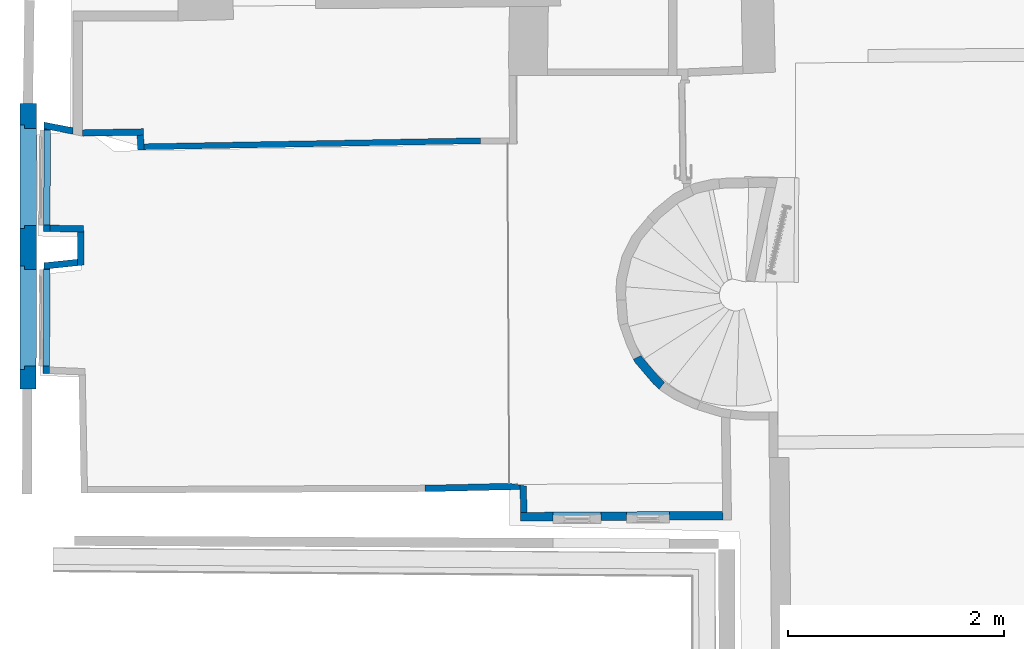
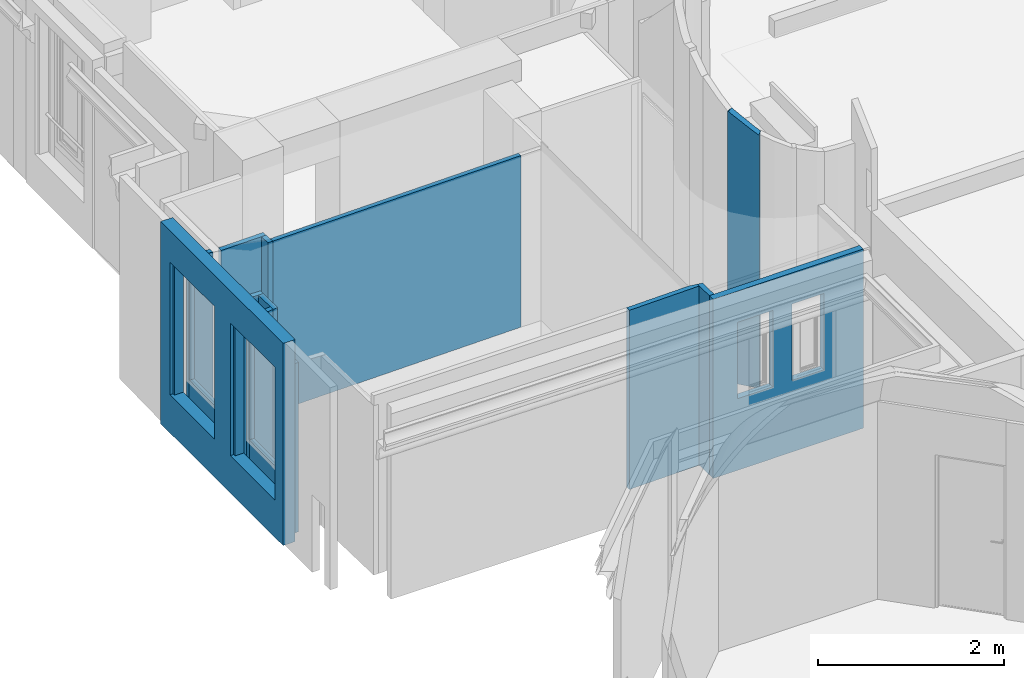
# One storey, part 9 of 72: 14 walls, 6 openings.
"""IFC2X3 building model written with IfcOpenShell, lengths in centimetres."""

from ifc_helpers import new_model, entity, si_unit, converted_unit, direction, frame, origin, origin_with_axes, place, context, subcontext, project, spatial, polyline, outline, extrude, clip, bounded_halfspace, faceted_brep, shape, material, layer, layer_set, layer_usage, type_object, element, save


model = new_model("IFC2X3")

# Units and contexts
model_context = context("Model", 3, precision=0.0001, world=origin(), true_north=direction((0.225632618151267, 0.974212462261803, 0.0)))
body_context = subcontext(model_context, "Body", "Model", "MODEL_VIEW")
footprint_context = subcontext(model_context, "FootPrint", "Model", "MODEL_VIEW")
profile_context = subcontext(model_context, "Profile", "Model", "MODEL_VIEW")
ifc_project = project(units=[si_unit("LENGTHUNIT", "METRE", prefix="CENTI"), si_unit("AREAUNIT", "SQUARE_METRE", prefix="CENTI"), si_unit("VOLUMEUNIT", "CUBIC_METRE", prefix="CENTI"), converted_unit("PLANEANGLEUNIT", "DEGREE", entity("IfcRatioMeasure", 0.0174532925), si_unit("PLANEANGLEUNIT", "RADIAN"), dimensions=[0, 0, 0, 0, 0, 0, 0])], contexts=[model_context])

# Site, building, storey
site_placement = place(None, origin_with_axes())
site = spatial("IfcSite", under=ifc_project, at=site_placement, Name="Default Site", CompositionType="ELEMENT")
building_placement = place(site_placement, origin_with_axes())
building = spatial("IfcBuilding", under=site, at=building_placement, Name="Default Building", CompositionType="ELEMENT")
storey_placement = place(building_placement, frame((0.0, 0.0, 853.910374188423), z_axis=(0.0, 0.0, 1.0), x_axis=(1.0, 0.0, 0.0)))
storey = spatial("IfcBuildingStorey", under=building, at=storey_placement, Name="Niveau 2", CompositionType="ELEMENT", Elevation=853.910374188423)

# Walls
ifc_material = material(Name="<aucun>")
ifc_layer_1 = layer(ifc_material, 6.0)
ifc_layer_set_1 = layer_set([ifc_layer_1], Name="default")
ifc_layer_usage_1 = layer_usage(ifc_layer_set_1, "AXIS2", "POSITIVE", -3.0)
wall_type_1 = type_object("IfcWallType", Name="default 60", PredefinedType="NOTDEFINED", material=ifc_layer_set_1)
wall_1_placement = place(storey_placement, frame((-894.619456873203, -318.216870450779, 1.4210854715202e-12), z_axis=(0.0, 0.0, 1.0), x_axis=(-0.0211585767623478, 0.999776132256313, 0.0)))
element("IfcWallStandardCase", 1, at=wall_1_placement, inside=storey, type_object=wall_type_1, material=ifc_layer_usage_1, Name="Enveloppe 176780", context=body_context, shape_type="SweptSolid", body=[
    extrude(outline(polyline([(33.4000968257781, 2.99999999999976), (8.14618749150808, 2.99999999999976), (8.05158322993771, -3.00000000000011), (32.267273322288, -3.00000000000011), (33.4000968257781, 2.99999999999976)])), frame((0.0, 0.0, -3.5527136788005e-13), z_axis=(0.0, 0.0, 1.0), x_axis=(1.0, 0.0, 0.0)), (0.0, 0.0, 1.0), 234.999999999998),
])
ifc_layer_usage_2 = layer_usage(ifc_layer_set_1, "AXIS2", "POSITIVE", -3.0)
wall_2_placement = place(storey_placement, frame((-1248.60407595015, 24.121359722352, 1.4210854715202e-12), z_axis=(0.0, 0.0, 1.0), x_axis=(-0.047141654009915, 0.998888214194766, 0.0)))
element("IfcWallStandardCase", 2, at=wall_2_placement, inside=storey, type_object=wall_type_1, material=ifc_layer_usage_2, Name="Enveloppe 176740", context=body_context, shape_type="SweptSolid", body=[
    extrude(outline(polyline([(14.4806644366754, 2.99999999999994), (0.981793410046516, 2.99999999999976), (0.806146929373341, -3.00000000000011), (14.3042869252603, -3.00000000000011), (14.4806644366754, 2.99999999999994)])), frame((0.0, 0.0, 3.5527136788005e-13), z_axis=(0.0, 0.0, 1.0), x_axis=(1.0, 0.0, 0.0)), (0.0, 0.0, 1.0), 224.999999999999),
])

# Wall, opening
ifc_layer_usage_3 = layer_usage(ifc_layer_set_1, "AXIS2", "POSITIVE", -3.0)
wall_3_placement = place(storey_placement, frame((-1335.77542990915, -44.5581791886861, 1.4210854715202e-12), z_axis=(0.0, 0.0, 1.0), x_axis=(0.00636364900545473, 0.999979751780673, 0.0)))
wall_3 = element("IfcWallStandardCase", 3, at=wall_3_placement, inside=storey, type_object=wall_type_1, material=ifc_layer_usage_3, Name="Enveloppe 176069", context=body_context, shape_type="SweptSolid", body=[
    extrude(outline(polyline([(-5.95347494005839, 3.00000000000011), (-6.0001817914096, -3.00000000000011), (87.9552161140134, -2.99999999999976), (89.0663379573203, 3.00000000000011), (-5.95347494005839, 3.00000000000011)])), frame((0.0, 0.0, -8.88178419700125e-13), z_axis=(0.0, 0.0, 1.0), x_axis=(1.0, 0.0, 0.0)), (0.0, 0.0, 1.0), 221.999999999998),
])
opening_1_placement = place(wall_3_placement, frame((-3.5527136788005e-14, 2.27373675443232e-13, 63.9999999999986), z_axis=(0.0, 0.0, 1.0), x_axis=(-1.0, 3.27862736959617e-16, 0.0)))
cartesian_point_1 = entity("IfcCartesianPoint", [-1.11022302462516e-14, 1.77635683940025e-13, 158.0])
cartesian_point_2 = entity("IfcCartesianPoint", [-87.9552161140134, -2.99999999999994])
element("IfcOpeningElement", 4, at=opening_1_placement, cuts=wall_3, Name="4294966501_11", ObjectType="Opening", shapes=[
    shape(body_context, "Body", "SweptSolid", [extrude(outline(polyline([(1.11022302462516e-14, 158.0), (0.0, 0.0), (87.9552161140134, 0.0), (87.9552161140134, 158.0), (1.11022302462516e-14, 158.0)])), frame((0.0, -13.0, 0.0), z_axis=(0.0, 1.0, 0.0), x_axis=(-1.0, 0.0, 0.0)), (0.0, 0.0, 1.0), 26.0)]),
    shape(profile_context, "Profile", "GeometricCurveSet", [entity("IfcGeometricCurveSet", [entity("IfcPolyline", [cartesian_point_1, entity("IfcCartesianPoint", [0.0, 1.77635683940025e-13, 0.0]), entity("IfcCartesianPoint", [-87.9552161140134, 3.5527136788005e-13, 0.0]), entity("IfcCartesianPoint", [-87.9552161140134, 3.5527136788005e-13, 158.0]), cartesian_point_1])])]),
    shape(footprint_context, "FootPrint", "GeometricCurveSet", [entity("IfcGeometricCurveSet", [entity("IfcPolyline", [cartesian_point_2, entity("IfcCartesianPoint", [0.0, -2.99999999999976]), entity("IfcCartesianPoint", [-1.11022302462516e-14, 3.00000000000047]), entity("IfcCartesianPoint", [-87.9552161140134, 3.00000000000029]), cartesian_point_2])])]),
])

# Walls
ifc_layer_usage_4 = layer_usage(ifc_layer_set_1, "AXIS2", "POSITIVE", -3.0)
wall_4_placement = place(storey_placement, frame((-1304.15660863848, -81.4931069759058, 1.4210854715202e-12), z_axis=(0.0, 0.0, 1.0), x_axis=(-0.0132160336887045, 0.999912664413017, 0.0)))
element("IfcWallStandardCase", 5, at=wall_4_placement, inside=storey, type_object=wall_type_1, material=ifc_layer_usage_4, Name="Enveloppe 176222", context=body_context, shape_type="SweptSolid", body=[
    extrude(outline(polyline([(30.6007949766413, 2.99999999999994), (-0.564094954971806, 3.00000000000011), (-0.00862817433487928, -2.99999999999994), (30.4365674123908, -2.99999999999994), (30.6007949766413, 2.99999999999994)])), frame((0.0, 0.0, -5.32907051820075e-13), z_axis=(0.0, 0.0, 1.0), x_axis=(1.0, 0.0, 0.0)), (0.0, 0.0, 1.0), 221.999999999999),
])
ifc_layer_usage_5 = layer_usage(ifc_layer_set_1, "AXIS2", "POSITIVE", -3.0)
wall_5_placement = place(storey_placement, frame((-1301.62957976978, 40.5651131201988, 1.4210854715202e-12), z_axis=(0.0, 0.0, 1.0), x_axis=(-0.982103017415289, 0.188344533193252, 0.0)))
element("IfcWallStandardCase", 6, at=wall_5_placement, inside=storey, type_object=wall_type_1, material=ifc_layer_usage_5, Name="Enveloppe 175841", context=body_context, shape_type="Clipping", body=[
    clip(clip(extrude(outline(polyline([(37.4510535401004, 3.00000000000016), (9.51819974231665, 3.00000000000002), (10.6770211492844, -2.99999999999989), (37.7813776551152, -2.9999999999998), (37.4510535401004, -1.21626700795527), (37.4510535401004, 3.00000000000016)])), origin_with_axes(), (0.0, 0.0, 1.0), 224.999999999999), bounded_halfspace(frame((37.4510535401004, 3.00000000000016, 221.999999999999), z_axis=(0.0, 0.0, 1.0), x_axis=(6.13398221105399e-15, -1.0, 0.0)), True, frame((37.4510535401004, 3.00000000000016, 221.999999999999), z_axis=(0.0, 0.0, 1.0), x_axis=(1.0, 0.0, 0.0)), polyline([(-0.780797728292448, -4.44089209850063e-14), (0.0, -4.44089209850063e-14), (0.0, -4.21626700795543), (-0.780797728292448, -4.44089209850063e-14)]))), bounded_halfspace(frame((37.4510535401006, -1.21626700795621, 221.999999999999), z_axis=(0.0, 0.0, -1.0), x_axis=(-1.12382325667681e-13, -1.0, 0.0)), True, frame((37.4510535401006, -1.21626700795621, 221.999999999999), z_axis=(0.0, 0.0, 1.0), x_axis=(1.0, 0.0, 0.0)), polyline([(-1.77635683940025e-13, -1.7837329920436), (0.330324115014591, -1.7837329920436), (0.0, 0.0), (-1.77635683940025e-13, -1.7837329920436)]))),
])
ifc_layer_usage_6 = layer_usage(ifc_layer_set_1, "AXIS2", "POSITIVE", -3.0)
wall_6_placement = place(storey_placement, frame((-1301.58046418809, -48.0189474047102, 1.4210854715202e-12), z_axis=(0.0, 0.0, 1.0), x_axis=(-0.999899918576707, 0.0141475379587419, 0.0)))
element("IfcWallStandardCase", 7, at=wall_6_placement, inside=storey, type_object=wall_type_1, material=ifc_layer_usage_6, Name="Enveloppe 175987", context=body_context, shape_type="SweptSolid", body=[
    extrude(outline(polyline([(31.193888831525, 2.99999999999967), (-0.0637918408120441, 2.99999999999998), (0.10043572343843, -3.0), (31.2405956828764, -3.00000000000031), (31.193888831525, 2.99999999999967)])), frame((0.0, 0.0, 1.77635683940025e-13), z_axis=(0.0, 0.0, 1.0), x_axis=(1.0, 0.0, 0.0)), (0.0, 0.0, 1.0), 221.999999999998),
])
ifc_layer_usage_7 = layer_usage(ifc_layer_set_1, "AXIS2", "POSITIVE", -3.0)
wall_7_placement = place(storey_placement, frame((-1339.28688111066, -82.4842212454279, 1.4210854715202e-12), z_axis=(0.0, 0.0, 1.0), x_axis=(0.994436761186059, 0.105335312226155, 0.0)))
element("IfcWallStandardCase", 8, at=wall_7_placement, inside=storey, type_object=wall_type_1, material=ifc_layer_usage_7, Name="Enveloppe 176242", context=body_context, shape_type="SweptSolid", body=[
    extrude(outline(polyline([(0.412707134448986, -3.0), (32.0000073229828, -2.99999999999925), (32.5554741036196, 3.00000000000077), (1.09163626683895, 3.00000000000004), (0.412707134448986, -3.0)])), origin_with_axes(), (0.0, 0.0, 1.0), 221.999999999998),
])
ifc_layer_usage_8 = layer_usage(ifc_layer_set_1, "AXIS2", "POSITIVE", -3.0)
wall_8_placement = place(storey_placement, frame((-985.842209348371, -288.034717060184, 1.4210854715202e-12), z_axis=(0.0, 0.0, 1.0), x_axis=(0.999736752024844, 0.0229439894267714, 0.0)))
element("IfcWallStandardCase", 9, at=wall_8_placement, inside=storey, type_object=wall_type_1, material=ifc_layer_usage_8, Name="Enveloppe 176538", context=body_context, shape_type="SweptSolid", body=[
    extrude(outline(polyline([(-0.0440883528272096, 3.00101182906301), (-0.155872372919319, -2.99770562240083), (87.5585013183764, -3.00000000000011), (87.5658914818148, 1.13817923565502), (77.8004510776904, 2.99999999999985), (-0.0440883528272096, 3.00101182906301)])), frame((0.0, 0.0, -3.5527136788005e-13), z_axis=(0.0, 0.0, 1.0), x_axis=(1.0, 0.0, 0.0)), (0.0, 0.0, 1.0), 234.999999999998),
])

# Wall, opening
ifc_layer_usage_9 = layer_usage(ifc_layer_set_1, "AXIS2", "POSITIVE", -3.0)
wall_9_placement = place(storey_placement, frame((-1336.20455837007, -175.585674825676, 1.4210854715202e-12), z_axis=(0.0, 0.0, 1.0), x_axis=(0.0071444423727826, 0.999974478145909, 0.0)))
wall_9 = element("IfcWallStandardCase", 10, at=wall_9_placement, inside=storey, type_object=wall_type_1, material=ifc_layer_usage_9, Name="Enveloppe 176262", context=body_context, shape_type="SweptSolid", body=[
    extrude(outline(polyline([(-5.99692213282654, 2.99999999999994), (-6.20419420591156, -2.99999999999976), (90.8214123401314, -2.99999999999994), (90.1424832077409, 2.99999999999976), (-5.99692213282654, 2.99999999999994)])), frame((0.0, 0.0, 1.77635683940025e-13), z_axis=(0.0, 0.0, 1.0), x_axis=(1.0, 0.0, 0.0)), (0.0, 0.0, 1.0), 221.999999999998),
])
opening_2_placement = place(wall_9_placement, frame((0.56182640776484, 2.27373675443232e-13, 63.9999999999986), z_axis=(0.0, 0.0, 1.0), x_axis=(-1.0, 1.71477415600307e-15, 0.0)))
cartesian_point_3 = entity("IfcCartesianPoint", [0.0, 0.0, 158.000003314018])
cartesian_point_4 = entity("IfcCartesianPoint", [-89.568901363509, -3.00000000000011])
element("IfcOpeningElement", 11, at=opening_2_placement, cuts=wall_9, Name="4294966504_11", ObjectType="Opening", shapes=[
    shape(body_context, "Body", "SweptSolid", [extrude(outline(polyline([(0.0, 158.000003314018), (0.0, 0.0), (89.568901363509, 0.0), (89.568901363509, 158.000003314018), (0.0, 158.000003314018)])), frame((0.0, -13.0, 0.0), z_axis=(0.0, 1.0, 0.0), x_axis=(-1.0, 0.0, 0.0)), (0.0, 0.0, 1.0), 26.0)]),
    shape(profile_context, "Profile", "GeometricCurveSet", [entity("IfcGeometricCurveSet", [entity("IfcPolyline", [cartesian_point_3, entity("IfcCartesianPoint", [0.0, 0.0, 0.0]), entity("IfcCartesianPoint", [-89.568901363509, -3.5527136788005e-13, 0.0]), entity("IfcCartesianPoint", [-89.568901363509, -3.5527136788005e-13, 158.000003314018]), cartesian_point_3])])]),
    shape(footprint_context, "FootPrint", "GeometricCurveSet", [entity("IfcGeometricCurveSet", [entity("IfcPolyline", [cartesian_point_4, entity("IfcCartesianPoint", [0.0, -3.00000000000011]), entity("IfcCartesianPoint", [-2.22044604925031e-14, 2.99999999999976]), entity("IfcCartesianPoint", [-89.568901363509, 2.99999999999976]), cartesian_point_4])])]),
])

# Wall
ifc_layer_usage_10 = layer_usage(ifc_layer_set_1, "AXIS2", "POSITIVE", -3.0)
wall_10_placement = place(storey_placement, frame((-1302.24683388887, 40.5569624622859, 1.4210854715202e-12), z_axis=(0.0, 0.0, 1.0), x_axis=(0.999842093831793, 0.0177704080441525, 0.0)))
element("IfcWallStandardCase", 12, at=wall_10_placement, inside=storey, type_object=wall_type_1, material=ifc_layer_usage_10, Name="Enveloppe 175681", context=body_context, shape_type="SweptSolid", body=[
    extrude(outline(polyline([(-0.344348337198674, -2.86621744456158), (0.291903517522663, -2.99999999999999), (55.9206138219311, -3.00000000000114), (55.7442363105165, 2.99999999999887), (-0.247782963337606, 3.0), (-0.344348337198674, -2.86621744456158)])), frame((0.0, 0.0, -1.77635683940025e-13), z_axis=(0.0, 0.0, 1.0), x_axis=(1.0, 0.0, 0.0)), (0.0, 0.0, 1.0), 224.999999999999),
])

# Wall, openings
ifc_layer_2 = layer(ifc_material, 15.0)
ifc_layer_set_2 = layer_set([ifc_layer_2], Name="default")
ifc_layer_usage_11 = layer_usage(ifc_layer_set_2, "AXIS2", "POSITIVE", -7.5)
wall_type_2 = type_object("IfcWallType", Name="default 150", PredefinedType="NOTDEFINED", material=ifc_layer_set_2)
wall_11_placement = place(storey_placement, frame((-1353.00952372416, -195.890849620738, -1.95399252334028e-11), z_axis=(0.0, 0.0, 1.0), x_axis=(0.000782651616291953, 0.999999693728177, 0.0)))
wall_11 = element("IfcWallStandardCase", 13, at=wall_11_placement, inside=storey, type_object=wall_type_2, material=ifc_layer_usage_11, Name="Enveloppe 461511", context=body_context, shape_type="SweptSolid", body=[
    extrude(outline(polyline([(-2.22044604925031e-14, 7.49999999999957), (2.22044604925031e-14, 5.32698075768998), (-0.0958763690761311, 5.32702468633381), (-0.0999999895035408, -3.67297436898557), (-2.22044604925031e-14, -3.67302018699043), (0.0, -7.50000000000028), (263.602983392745, -7.50000000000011), (263.602983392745, -4.11672517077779), (263.734063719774, 4.88232022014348), (263.602983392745, 4.88422953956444), (263.602983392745, 7.49999999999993), (-2.22044604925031e-14, 7.49999999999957)])), frame((0.0, 0.0, 1.97175609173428e-11), z_axis=(0.0, 0.0, 1.0), x_axis=(1.0, 0.0, 0.0)), (0.0, 0.0, 1.0), 265.061625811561),
])
opening_3_placement = place(wall_11_placement, frame((17.9392552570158, 2.27373675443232e-13, 49.0919127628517), z_axis=(0.0, 0.0, 1.0), x_axis=(1.0, 1.81278603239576e-16, 0.0)))
cartesian_point_5 = entity("IfcCartesianPoint", [0.0, 0.0, 174.0])
cartesian_point_6 = entity("IfcCartesianPoint", [95.5707139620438, 7.49999999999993])
element("IfcOpeningElement", 14, at=opening_3_placement, cuts=wall_11, Name="Baie 748106", ObjectType="Opening", shapes=[
    shape(body_context, "Body", "Brep", [faceted_brep([(-3.93469044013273e-06, 27.4999777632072, 174.000047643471), (95.5707147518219, 27.4999777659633, 174.000047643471), (95.5707147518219, 27.4999777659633, -2.48357766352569e-05), (-3.93469044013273e-06, 27.4999777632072, -2.48357766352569e-05), (3.00000539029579, -27.4999990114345, -2.48357766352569e-05), (92.5707160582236, -27.4999990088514, -2.48357766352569e-05), (92.5707160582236, -27.4999990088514, 174.000047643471), (3.00000539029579, -27.4999990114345, 174.000047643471), (3.00000538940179, 3.49995707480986, 174.000047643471), (3.00000538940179, 3.49995707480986, -2.48357766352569e-05), (3.00000231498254, 3.49995707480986, -2.48357766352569e-05), (3.00000231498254, 3.49995707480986, 174.000047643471), (4.22883324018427e-06, 3.49995707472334, 174.000047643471), (4.22883324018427e-06, 3.49995707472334, -2.48357766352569e-05), (4.22883323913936e-06, 3.49999330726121, -2.48357766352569e-05), (4.22883323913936e-06, 3.49999330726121, 174.000047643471), (4.22814110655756e-06, 27.4999777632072, 174.000047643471), (4.22814110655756e-06, 27.4999777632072, -2.48357766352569e-05), (92.5707160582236, -27.4999914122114, -2.48357766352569e-05), (95.5707147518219, 27.5000082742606, -2.48357766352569e-05), (95.5707109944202, 3.50002380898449, -2.48357766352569e-05), (92.5707129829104, 3.49996467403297, -2.48357766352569e-05), (92.5707160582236, -27.4999914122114, 174.000047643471), (92.5707160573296, 3.49996467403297, -2.48357766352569e-05), (92.5707160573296, 3.49996467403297, 174.000047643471), (92.5707129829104, 3.49996467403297, 174.000047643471), (95.5707109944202, 3.49996467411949, -2.48357766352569e-05), (95.5707109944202, 3.49996467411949, 174.000047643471), (95.5707109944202, 3.50002380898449, 174.000047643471), (95.5707109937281, 27.5000082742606, -2.48357766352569e-05), (95.5707109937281, 27.5000082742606, 174.000047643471), (95.5707147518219, 27.5000082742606, 174.000047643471)], [[[0, 1, 2, 3]], [[4, 5, 6, 7]], [[4, 7, 8, 9]], [[10, 11, 12, 13]], [[14, 15, 16, 17]], [[18, 4, 10, 14, 3, 19, 20, 21]], [[22, 18, 23, 24]], [[25, 21, 26, 27]], [[28, 20, 29, 30]], [[25, 28, 31, 0, 15, 11, 7, 22]]])]),
    shape(profile_context, "Profile", "GeometricCurveSet", [entity("IfcGeometricCurveSet", [entity("IfcPolyline", [cartesian_point_5, entity("IfcCartesianPoint", [0.0, 0.0, 0.0]), entity("IfcCartesianPoint", [95.5707139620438, 0.0, 0.0]), entity("IfcCartesianPoint", [95.5707139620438, 0.0, 174.0]), cartesian_point_5])])]),
    shape(footprint_context, "FootPrint", "GeometricCurveSet", [entity("IfcGeometricCurveSet", [entity("IfcPolyline", [cartesian_point_6, entity("IfcCartesianPoint", [2.22044604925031e-14, 7.49999999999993]), entity("IfcCartesianPoint", [0.0, -7.49999999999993]), entity("IfcCartesianPoint", [95.5707139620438, -7.49999999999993]), cartesian_point_6])])]),
])
opening_4_placement = place(wall_11_placement, frame((148.079711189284, 0.0, 49.8897419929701), z_axis=(0.0, 0.0, 1.0), x_axis=(1.0, 1.81278603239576e-16, 0.0)))
cartesian_point_7 = entity("IfcCartesianPoint", [0.0, 0.0, 174.153992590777])
cartesian_point_8 = entity("IfcCartesianPoint", [95.5560728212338, 7.50000000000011])
element("IfcOpeningElement", 15, at=opening_4_placement, cuts=wall_11, Name="Baie 748107", ObjectType="Opening", shapes=[
    shape(body_context, "Body", "Brep", [faceted_brep([(7.84143572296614e-07, 27.4999799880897, 174.153985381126), (95.5560716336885, 27.4999799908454, 174.153985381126), (95.5560716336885, 27.4999799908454, -1.01327897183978e-05), (7.84143572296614e-07, 27.4999799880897, -1.01327897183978e-05), (3.00000116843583, -27.4999967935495, -1.01327897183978e-05), (92.5560729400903, -27.4999967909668, -1.01327897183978e-05), (92.5560729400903, -27.4999967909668, 174.153985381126), (3.00000116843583, -27.4999967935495, 174.153985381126), (3.00000116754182, 3.49995929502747, 174.153985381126), (3.00000116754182, 3.49995929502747, -1.01327897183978e-05), (3.00000107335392, 3.49995929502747, -1.01327897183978e-05), (3.00000107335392, 3.49995929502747, 174.153985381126), (6.97327855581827e-09, 3.49995929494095, 174.153985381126), (6.97327855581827e-09, 3.49995929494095, -1.01327897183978e-05), (6.97327751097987e-09, 3.49999552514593, -1.01327897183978e-05), (6.97327751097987e-09, 3.49999552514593, 174.153985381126), (6.28114492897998e-09, 27.4999799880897, 174.153985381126), (6.28114492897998e-09, 27.4999799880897, -1.01327897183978e-05), (92.5560729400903, -27.5000006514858, -1.01327897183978e-05), (95.5560716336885, 27.4999990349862, -1.01327897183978e-05), (95.5560738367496, 3.50001457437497, -1.01327897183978e-05), (92.5560728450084, 3.49995543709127, -1.01327897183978e-05), (92.5560729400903, -27.5000006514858, 174.153985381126), (92.5560729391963, 3.49995543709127, -1.01327897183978e-05), (92.5560729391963, 3.49995543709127, 174.153985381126), (92.5560728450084, 3.49995543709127, 174.153985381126), (95.5560738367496, 3.49995543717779, -1.01327897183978e-05), (95.5560738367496, 3.49995543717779, 174.153985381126), (95.5560738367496, 3.50001457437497, 174.153985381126), (95.5560738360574, 27.4999990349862, -1.01327897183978e-05), (95.5560738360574, 27.4999990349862, 174.153985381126), (95.5560716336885, 27.4999990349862, 174.153985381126)], [[[0, 1, 2, 3]], [[4, 5, 6, 7]], [[4, 7, 8, 9]], [[10, 11, 12, 13]], [[14, 15, 16, 17]], [[18, 4, 10, 14, 3, 19, 20, 21]], [[22, 18, 23, 24]], [[25, 21, 26, 27]], [[28, 20, 29, 30]], [[25, 28, 31, 0, 15, 11, 7, 22]]])]),
    shape(profile_context, "Profile", "GeometricCurveSet", [entity("IfcGeometricCurveSet", [entity("IfcPolyline", [cartesian_point_7, entity("IfcCartesianPoint", [0.0, 0.0, -1.77635683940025e-13]), entity("IfcCartesianPoint", [95.5560728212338, 1.77635683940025e-13, -1.77635683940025e-13]), entity("IfcCartesianPoint", [95.5560728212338, 1.77635683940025e-13, 174.153992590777]), cartesian_point_7])])]),
    shape(footprint_context, "FootPrint", "GeometricCurveSet", [entity("IfcGeometricCurveSet", [entity("IfcPolyline", [cartesian_point_8, entity("IfcCartesianPoint", [5.55111512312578e-15, 7.50000000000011]), entity("IfcCartesianPoint", [0.0, -7.49999999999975]), entity("IfcCartesianPoint", [95.5560728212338, -7.49999999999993]), cartesian_point_8])])]),
])

# Wall
ifc_layer_3 = layer(ifc_material, 5.5)
ifc_layer_set_3 = layer_set([ifc_layer_3], Name="default")
ifc_layer_usage_12 = layer_usage(ifc_layer_set_3, "AXIS2", "POSITIVE", -2.75)
wall_type_3 = type_object("IfcWallType", Name="default 55", PredefinedType="NOTDEFINED", material=ifc_layer_set_3)
wall_12_placement = place(storey_placement, frame((-1251.11154195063, 27.7206593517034, 1.4210854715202e-12), z_axis=(0.0, 0.0, 1.0), x_axis=(0.999839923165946, 0.0178921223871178, 0.0)))
element("IfcWallStandardCase", 16, at=wall_12_placement, inside=storey, type_object=wall_type_3, material=ifc_layer_usage_12, Name="Enveloppe 170663", context=body_context, shape_type="SweptSolid", body=[
    extrude(outline(polyline([(5.25678219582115, 2.75000000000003), (5.41779146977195, -2.74999999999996), (316.47225271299, -2.75088719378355), (316.587725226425, 2.74790049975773), (5.25678219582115, 2.75000000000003)])), frame((0.0, 0.0, -3.5527136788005e-13), z_axis=(0.0, 0.0, 1.0), x_axis=(1.0, 0.0, 0.0)), (0.0, 0.0, 1.0), 224.999999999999),
])

# Wall, openings
ifc_layer_4 = layer(ifc_material, 8.0)
ifc_layer_set_4 = layer_set([ifc_layer_4], Name="default")
ifc_layer_usage_13 = layer_usage(ifc_layer_set_4, "AXIS2", "POSITIVE", -4.0)
wall_type_4 = type_object("IfcWallType", Name="default 80", PredefinedType="NOTDEFINED", material=ifc_layer_set_4)
wall_13_placement = place(storey_placement, frame((-891.769489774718, -314.103558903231, 1.4210854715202e-12), z_axis=(0.0, 0.0, 1.0), x_axis=(0.999985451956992, 0.00539405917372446, 0.0)))
wall_13 = element("IfcWallStandardCase", 17, at=wall_13_placement, inside=storey, type_object=wall_type_4, material=ifc_layer_usage_13, Name="Enveloppe 170245", context=body_context, shape_type="SweptSolid", body=[
    extrude(outline(polyline([(-6.00016828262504, 4.00000000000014), (-5.87402926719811, -3.99999999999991), (180.99639290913, -4.00000000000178), (180.920074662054, 3.99999999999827), (-6.00016828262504, 4.00000000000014)])), frame((0.0, 0.0, -3.5527136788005e-13), z_axis=(0.0, 0.0, 1.0), x_axis=(1.0, 0.0, 0.0)), (0.0, 0.0, 1.0), 234.999999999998),
])
opening_5_placement = place(wall_13_placement, frame((91.8467861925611, -8.5265128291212e-13, 93.9999999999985), z_axis=(0.0, 0.0, 1.0), x_axis=(1.0, -9.90180160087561e-15, 0.0)))
cartesian_point_9 = entity("IfcCartesianPoint", [0.0, 0.0, 100.108563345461])
cartesian_point_10 = entity("IfcCartesianPoint", [39.9737666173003, 4.00000000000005])
element("IfcOpeningElement", 18, at=opening_5_placement, cuts=wall_13, Name="4294966522_11", ObjectType="Opening", shapes=[
    shape(body_context, "Body", "SweptSolid", [extrude(outline(polyline([(0.0, 100.108563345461), (0.0, 1.77635683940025e-13), (39.9737666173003, 1.77635683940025e-13), (39.9737666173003, 100.108563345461), (0.0, 100.108563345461)])), frame((0.0, 14.0, 0.0), z_axis=(0.0, -1.0, 0.0), x_axis=(1.0, 0.0, 0.0)), (0.0, 0.0, 1.0), 28.0)]),
    shape(profile_context, "Profile", "GeometricCurveSet", [entity("IfcGeometricCurveSet", [entity("IfcPolyline", [cartesian_point_9, entity("IfcCartesianPoint", [0.0, 0.0, 1.77635683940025e-13]), entity("IfcCartesianPoint", [39.9737666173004, 4.44089209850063e-14, 1.77635683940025e-13]), entity("IfcCartesianPoint", [39.9737666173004, 4.44089209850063e-14, 100.108563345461]), cartesian_point_9])])]),
    shape(footprint_context, "FootPrint", "GeometricCurveSet", [entity("IfcGeometricCurveSet", [entity("IfcPolyline", [cartesian_point_10, entity("IfcCartesianPoint", [0.0, 4.0]), entity("IfcCartesianPoint", [0.0, -4.00000000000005]), entity("IfcCartesianPoint", [39.9737666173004, -4.0]), cartesian_point_10])])]),
])
opening_6_placement = place(wall_13_placement, frame((24.1670385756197, -2.27373675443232e-13, 93.9999999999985), z_axis=(0.0, 0.0, 1.0), x_axis=(1.0, -9.90180160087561e-15, 0.0)))
cartesian_point_11 = entity("IfcCartesianPoint", [0.0, 4.44089209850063e-14, 100.108563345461])
cartesian_point_12 = entity("IfcCartesianPoint", [44.103720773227, 4.00000000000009])
element("IfcOpeningElement", 19, at=opening_6_placement, cuts=wall_13, Name="4294966521_11", ObjectType="Opening", shapes=[
    shape(body_context, "Body", "SweptSolid", [extrude(outline(polyline([(0.0, 100.108563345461), (0.0, 1.77635683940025e-13), (44.103720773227, 1.77635683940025e-13), (44.103720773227, 100.108563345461), (0.0, 100.108563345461)])), frame((0.0, 14.0, 0.0), z_axis=(0.0, -1.0, 0.0), x_axis=(1.0, 0.0, 0.0)), (0.0, 0.0, 1.0), 28.0)]),
    shape(profile_context, "Profile", "GeometricCurveSet", [entity("IfcGeometricCurveSet", [entity("IfcPolyline", [cartesian_point_11, entity("IfcCartesianPoint", [0.0, 4.44089209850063e-14, 1.77635683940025e-13]), entity("IfcCartesianPoint", [44.1037207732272, 4.44089209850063e-14, 1.77635683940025e-13]), entity("IfcCartesianPoint", [44.1037207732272, 4.44089209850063e-14, 100.108563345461]), cartesian_point_11])])]),
    shape(footprint_context, "FootPrint", "GeometricCurveSet", [entity("IfcGeometricCurveSet", [entity("IfcPolyline", [cartesian_point_12, entity("IfcCartesianPoint", [0.0, 4.00000000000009]), entity("IfcCartesianPoint", [0.0, -3.99999999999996]), entity("IfcCartesianPoint", [44.1037207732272, -3.99999999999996]), cartesian_point_12])])]),
])

# Wall
ifc_layer_5 = layer(ifc_material, 8.2)
ifc_layer_set_5 = layer_set([ifc_layer_5], Name="default")
ifc_layer_usage_14 = layer_usage(ifc_layer_set_5, "AXIS2", "POSITIVE", -4.1)
wall_type_5 = type_object("IfcWallType", Name="default 82", PredefinedType="NOTDEFINED", material=ifc_layer_set_5)
wall_14_placement = place(storey_placement, frame((-767.556797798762, -192.823972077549, 0.0), z_axis=(0.0, 0.0, 1.0), x_axis=(-0.734240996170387, 0.678888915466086, 0.0)))
element("IfcWallStandardCase", 20, at=wall_14_placement, inside=storey, type_object=wall_type_5, material=ifc_layer_usage_14, Name="Enveloppe courbe 169829", context=body_context, shape_type="Clipping", body=[
    clip(clip(clip(clip(clip(clip(clip(extrude(outline(polyline([(35.3620999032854, -0.106131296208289), (31.8028467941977, 0.994546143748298), (6.6369148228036, 3.97006635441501), (-8.88178419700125e-14, 4.10000000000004), (-0.816651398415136, 4.05179034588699), (-0.110928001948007, -4.11720794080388), (-7.28306304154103e-12, -4.09999999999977), (6.31596820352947, -4.22365033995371), (31.4625889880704, -7.19688727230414), (32.7670850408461, -7.46180243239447), (35.3620999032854, -0.106131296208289)])), frame((0.0, 0.0, 3.5527136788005e-13), z_axis=(0.0, 0.0, 1.0), x_axis=(1.0, 0.0, 0.0)), (0.0, 0.0, 1.0), 354.708197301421), bounded_halfspace(frame((6.6369148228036, 3.97006635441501, 336.030849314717), z_axis=(0.554542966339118, -1.11022302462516e-15, -0.832155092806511), x_axis=(-8.7913010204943e-13, -1.0, -5.63235095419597e-13)), True, frame((6.6369148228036, 3.97006635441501, 336.030849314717), z_axis=(0.0, 0.0, 1.0), x_axis=(1.0, 0.0, 0.0)), polyline([(-6.63691482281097, -8.07006635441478), (0.0, 0.0), (-6.63691482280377, 0.129933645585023), (-6.63691482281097, -8.07006635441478)]))), bounded_halfspace(frame((-0.816651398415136, 4.05179034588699, 331.60805065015), z_axis=(0.0, 0.0, -1.0), x_axis=(0.0860698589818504, -0.996289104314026, 0.0)), True, frame((-0.816651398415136, 4.05179034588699, 331.60805065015), z_axis=(0.0, 0.0, 1.0), x_axis=(1.0, 0.0, 0.0)), polyline([(0.705723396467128, -8.16899828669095), (0.816651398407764, -8.15179034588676), (0.816651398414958, 0.0482096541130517), (-8.88178419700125e-14, -8.88178419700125e-14), (0.705723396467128, -8.16899828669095)]))), bounded_halfspace(frame((6.31596820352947, -4.22365033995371, 336.030849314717), z_axis=(0.573163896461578, -0.0224507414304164, -0.819133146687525), x_axis=(0.0391398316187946, 0.999233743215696, 0.0)), True, frame((6.31596820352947, -4.22365033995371, 336.030849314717), z_axis=(0.0, 0.0, 1.0), x_axis=(1.0, 0.0, 0.0)), polyline([(-6.31596820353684, 0.12365033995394), (-8.88178419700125e-14, -8.88178419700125e-14), (0.320946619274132, 8.19371669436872), (-6.31596820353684, 0.12365033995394)]))), bounded_halfspace(frame((31.4625889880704, -7.19688727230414, 353.776304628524), z_axis=(0.564052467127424, -0.112126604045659, -0.818090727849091), x_axis=(0.194972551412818, 0.980808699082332, -2.2290547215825e-14)), True, frame((31.4625889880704, -7.19688727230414, 353.776304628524), z_axis=(0.0, 0.0, 1.0), x_axis=(1.0, 0.0, 0.0)), polyline([(-25.146620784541, 2.97323693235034), (-8.88178419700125e-14, 0.0), (1.55375649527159, 7.81616630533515), (1.11683196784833, 7.95128256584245), (-25.146620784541, 2.97323693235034)]))), bounded_halfspace(frame((32.7670850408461, -7.46180243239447, 354.708197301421), z_axis=(0.561561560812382, -0.116454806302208, -0.819198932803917), x_axis=(0.203056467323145, 0.979167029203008, -3.85689827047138e-13)), True, frame((32.7670850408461, -7.46180243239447, 354.708197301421), z_axis=(0.0, 0.0, 1.0), x_axis=(1.0, 0.0, 0.0)), polyline([(-1.30449605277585, 0.264915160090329), (-8.88178419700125e-14, -8.88178419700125e-14), (1.58985594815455, 7.66651043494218), (1.53307427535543, 7.68406982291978), (-1.30449605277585, 0.264915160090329)]))), bounded_halfspace(frame((32.5794209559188, 0.754395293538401, 353.456537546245), z_axis=(0.55559950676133, -0.0217627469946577, -0.831165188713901), x_axis=(-0.0391398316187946, -0.999233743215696, 2.16628882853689e-14)), True, frame((32.5794209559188, 0.754395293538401, 353.456537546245), z_axis=(0.0, 0.0, 1.0), x_axis=(1.0, 0.0, 0.0)), polyline([(-26.2634527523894, -4.9780456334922), (-8.88178419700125e-14, -8.88178419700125e-14), (-0.776574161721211, 0.240150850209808), (-25.9425061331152, 3.21567106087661), (-26.2634527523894, -4.9780456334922)]))), bounded_halfspace(frame((34.3001593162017, 0.22226739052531, 354.666777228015), z_axis=(0.543808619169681, -0.108102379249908, -0.832217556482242), x_axis=(-0.194972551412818, -0.980808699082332, 0.0)), True, frame((34.3001593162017, 0.22226739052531, 354.666777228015), z_axis=(0.0, 0.0, 1.0), x_axis=(1.0, 0.0, 0.0)), polyline([(-2.83757032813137, -7.41915466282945), (-8.88178419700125e-14, 0.0), (-1.28381383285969, 0.397011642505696), (-2.83757032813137, -7.41915466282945)]))),
])

save(model, "model.ifc")
